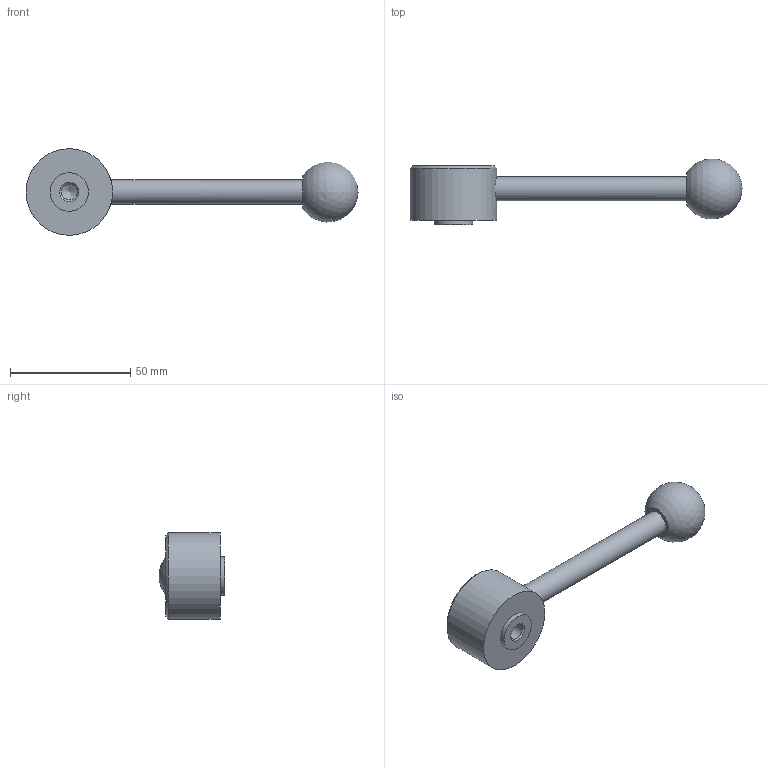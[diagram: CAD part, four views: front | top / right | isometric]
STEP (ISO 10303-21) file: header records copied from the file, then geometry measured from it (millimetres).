
FILE_DESCRIPTION( ( 'STEP AP203' ), '1' );
FILE_NAME( 'C:/Temp/Ganter_Step_05_03_2020/data/2_1/gn_125/gn_125_mb/gn_125_mb_d/Flat Adjustable Lever GN 125-36-M8-D.stp', '2020-03-05T11:00:38', ( 'License CC BY-ND 4.0' ), ( 'CADENAS' ), ' ', 'PARTsolutions', ' ' );
FILE_SCHEMA( ( 'CONFIG_CONTROL_DESIGN' ) );
Length unit declared in the file: millimetre
Products named in the file (1): _Flat Adjustable Lever GN 125-36-M8-D
Bounding box: 138 x 27.38 x 36 mm (x, y, z)
Volume: 36853.1 mm3; surface area: 9209.7 mm2
Topology: 1 solids, 1 shells, 14 faces, 25 edges, 16 vertices
Faces by surface type: cylinder 5, plane 5, cone 3, sphere 1
Full cylindrical faces by diameter (mm): 6.647 x1, 10 x1, 16 x1, 26 x1, 36 x1
Entity records: 396 total; most frequent: CARTESIAN_POINT 116, DIRECTION 54, AXIS2_PLACEMENT_3D 27, EDGE_LOOP 26, ORIENTED_EDGE 26, FACE_OUTER_BOUND 19, VERTEX_POINT 15, ADVANCED_FACE 14
